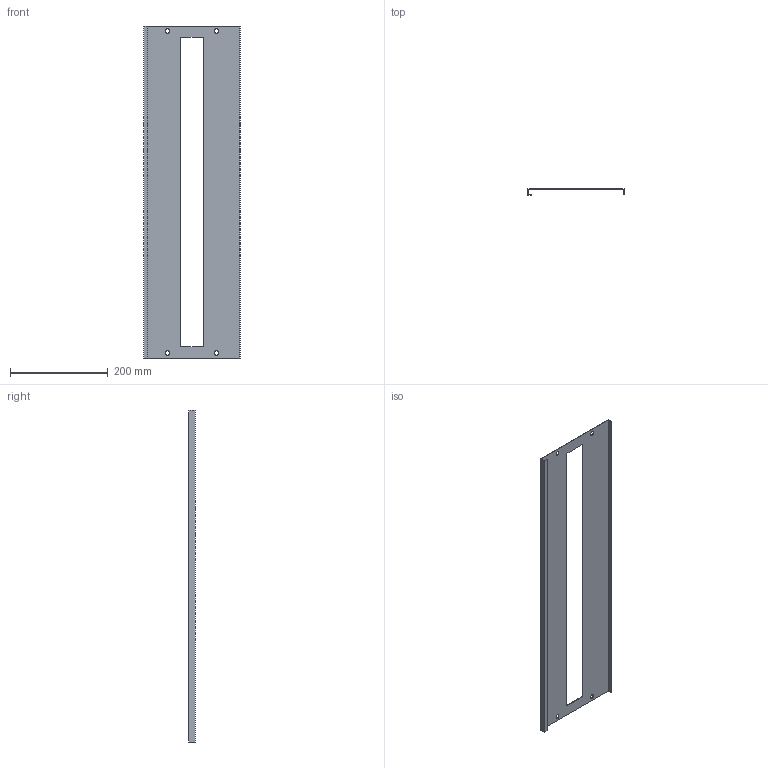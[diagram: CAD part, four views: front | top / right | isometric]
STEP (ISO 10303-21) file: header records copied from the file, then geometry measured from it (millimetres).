
FILE_DESCRIPTION (( 'STEP AP214' ), '1' );
FILE_NAME ('FO-00-PVM-020-080 Ïëàñòðîí äëÿ ìîäóëüíûõ óñòðîéñòâ 200õ800.STEP', '2025-08-26T08:01:39', ( '' ), ( '' ), 'SwSTEP 2.0', 'SolidWorks 2023', '' );
FILE_SCHEMA (( 'AUTOMOTIVE_DESIGN' ));
Length unit declared in the file: millimetre
Products named in the file (1): FO-00-PVM-020-080 Пластрон для модульных устройств 200х800
Bounding box: 198 x 12.5 x 679 mm (x, y, z)
Volume: 184653.1 mm3; surface area: 251113.6 mm2
Topology: 1 solids, 1 shells, 46 faces, 132 edges, 88 vertices
Faces by surface type: plane 34, cylinder 12
Entity records: 1543 total; most frequent: CARTESIAN_POINT 267, ORIENTED_EDGE 264, DIRECTION 250, EDGE_CURVE 132, LINE 108, VECTOR 108, VERTEX_POINT 88, AXIS2_PLACEMENT_3D 71
